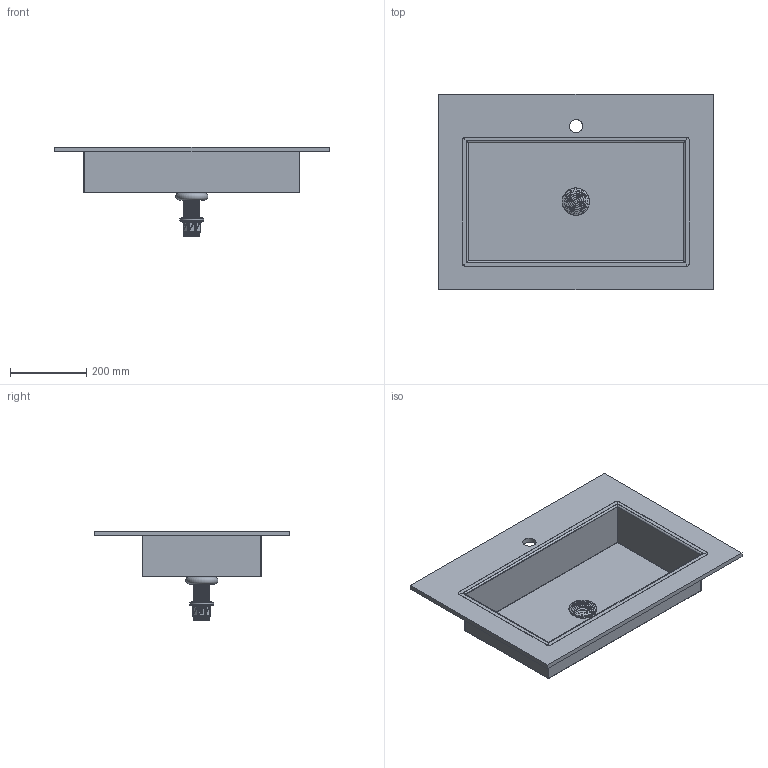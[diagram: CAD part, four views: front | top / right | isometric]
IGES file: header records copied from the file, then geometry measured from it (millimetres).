
Start section: Data from Parasolid IGES Translator 19.0.9, Copyright(c) 2006 Siemens PL M Software. All Rights Reserved.
Global section: file name: noorth-top-H 1,2 D 51,3 W 72_6556.igs; native system: By Siemens PLM Incorporated; preprocessor: XPlus GENERIC/IGES 19.0.9; author: Noname; organization: Noname; date: 20200603.104636; units: metre
Bounding box: 720 x 512 x 235.2 mm (x, y, z)
Volume: 2367807.4 mm3; surface area: 1272010.1 mm2
Topology: 2 solids, 2 shells, 11732 faces, 35117 edges, 35007 vertices
Faces by surface type: extrusion 11618, plane 60, cylinder 28, bspline 20, torus 4, cone 2
Full cylindrical faces by diameter (mm): 34.9 x1, 42 x1, 46 x1, 47.6 x1
